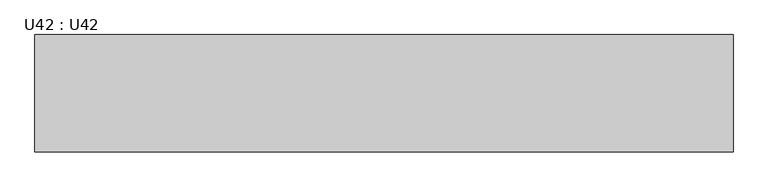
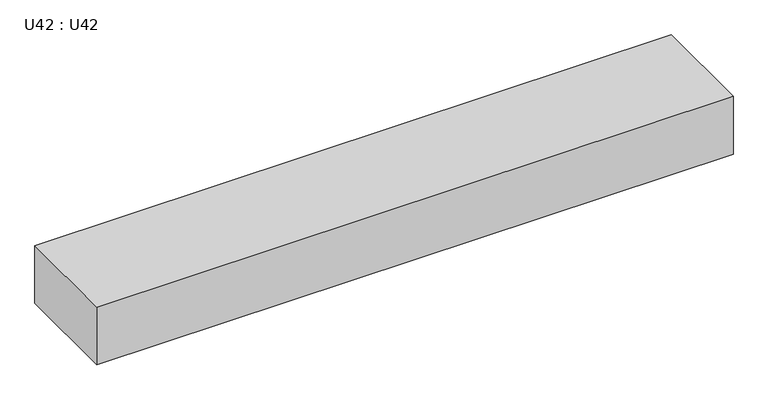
"""IFC4 building model written with IfcOpenShell, lengths in millimetres: beam geometry, U42 : U42."""

from ifc_helpers import new_model, si_unit, frame, origin, place, context, project, spatial, polyline, outline, extrude, source, transform, mapped, element, save


def u42_u42_4a57802d(model_context):
    return source(origin(), model_context, "Body", "SweptSolid", [
        extrude(outline(polyline([(-1250.0, -210.0), (-1250.0, 210.0), (1250.0, 210.0), (1250.0, -210.0), (-1250.0, -210.0)])), frame((0.0, 0.0, -120.0), z_axis=(0.0, 0.0, 1.0), x_axis=(1.0, 0.0, 0.0)), (0.0, 0.0, 1.0), 240.0),
    ])


if __name__ == "__main__":
    model = new_model("IFC4")
    model_context = context("Model", 3, world=origin())
    ifc_project = project(units=[si_unit("LENGTHUNIT", "METRE", prefix="MILLI")], contexts=[model_context])
    site = spatial("IfcSite", under=ifc_project)
    building = spatial("IfcBuilding", under=site)
    placement = place(None, origin())
    u42_u42_shape = u42_u42_4a57802d(model_context)
    element("IfcBeam", 1, ObjectType="U42 : U42", at=placement, inside=building, context=model_context, shape_type="MappedRepresentation", body=[
        mapped(u42_u42_shape, transform((0.0, 0.0, 0.0), x_axis=(1.0, 0.0, 0.0), y_axis=(0.0, 1.0, 0.0), z_axis=(0.0, 0.0, 1.0))),
    ])
    save(model, "model.ifc")
